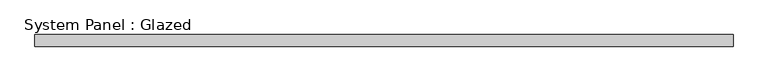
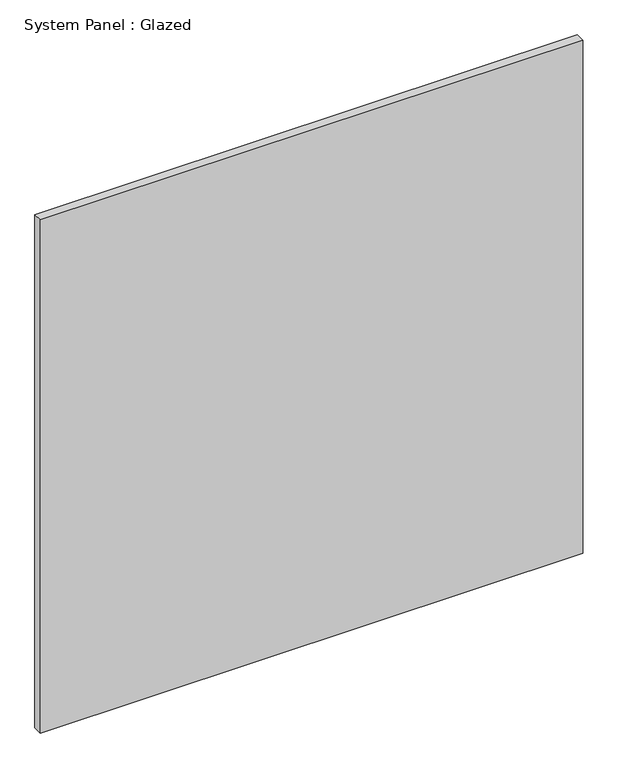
"""IFC4 building model written with IfcOpenShell, lengths in millimetres: plate geometry, System Panel : Glazed."""

from ifc_helpers import new_model, si_unit, origin, origin_with_axes, place, context, project, spatial, polyline, outline, extrude, source, transform, mapped, element, save


def system_panel_glazed_ca335f2d(model_context):
    return source(origin(), model_context, "Body", "SweptSolid", [
        extrude(outline(polyline([(733.4250002, 19.05), (-733.4250002, 19.05), (-733.4250002, 44.45), (733.4250002, 44.45), (733.4250002, 19.05)])), origin_with_axes(), (0.0, 0.0, 1.0), 1466.85),
    ])


if __name__ == "__main__":
    model = new_model("IFC4")
    model_context = context("Model", 3, world=origin())
    ifc_project = project(units=[si_unit("LENGTHUNIT", "METRE", prefix="MILLI")], contexts=[model_context])
    site = spatial("IfcSite", under=ifc_project)
    building = spatial("IfcBuilding", under=site)
    placement = place(None, origin())
    system_panel_glazed_shape = system_panel_glazed_ca335f2d(model_context)
    element("IfcPlate", 1, ObjectType="System Panel : Glazed", at=placement, inside=building, context=model_context, shape_type="MappedRepresentation", body=[
        mapped(system_panel_glazed_shape, transform((0.0, 0.0, 0.0), x_axis=(1.0, 0.0, 0.0), y_axis=(0.0, 1.0, 0.0), z_axis=(0.0, 0.0, 1.0))),
    ])
    save(model, "model.ifc")
